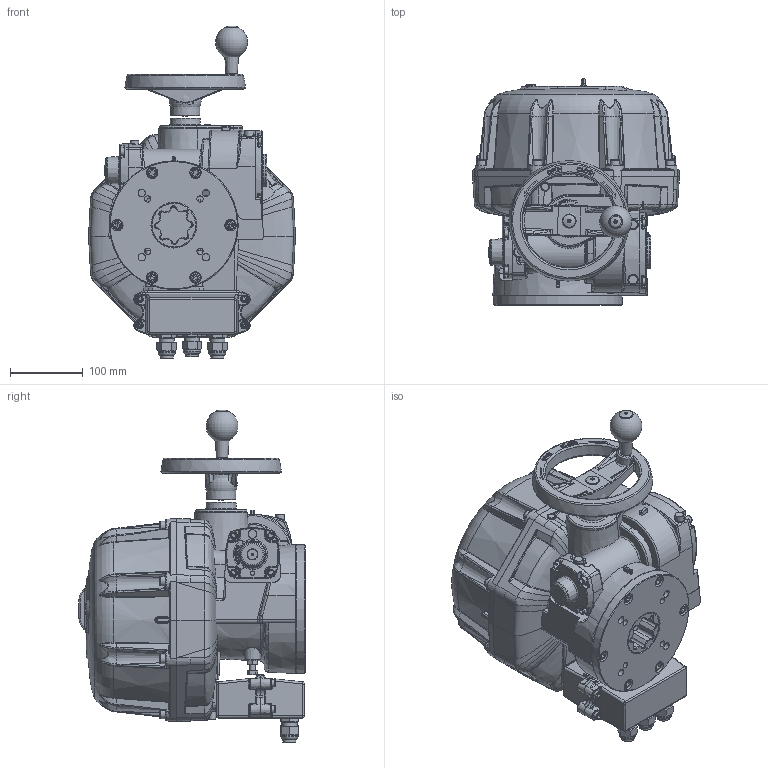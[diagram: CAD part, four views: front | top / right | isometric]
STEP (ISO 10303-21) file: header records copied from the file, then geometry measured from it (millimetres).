
FILE_DESCRIPTION (( 'STEP AP214' ), '1' );
FILE_NAME ('VT+1000.STEP', '2018-03-14T10:42:55', ( '' ), ( '' ), 'SwSTEP 2.0', 'SolidWorks 2013', '' );
FILE_SCHEMA (( 'AUTOMOTIVE_DESIGN' ));
Length unit declared in the file: millimetre
Products named in the file (1): VT+1000
Bounding box: 285.05 x 311.5 x 457.23 mm (x, y, z)
Surface area: 602872.6 mm2 (no closed solid volume)
Topology: 0 solids, 72 shells, 2151 faces, 6659 edges, 4291 vertices
Faces by surface type: plane 692, bspline 682, cylinder 433, torus 176, cone 135, sphere 33
Full cylindrical faces by diameter (mm): 4.2 x1, 5 x4, 6 x1, 8 x2, 8.5 x4, 10 x14, 10.2 x4, 11 x1, 12 x1, 13 x8, 15 x1, 16 x6, 17.9 x3, 18.5 x3, 19 x2, 19.3 x1, 20.8 x3, 23.5 x3, 50 x1, 57 x1, 62 x1, 65 x2, 68 x1, 177.4 x1
Entity records: 130092 total; most frequent: CARTESIAN_POINT 56000, ORIENTED_EDGE 10715, DIRECTION 8714, EDGE_CURVE 6423, VERTEX_POINT 4261, AXIS2_PLACEMENT_3D 3270, EDGE_LOOP 2492, FACE_OUTER_BOUND 2265
